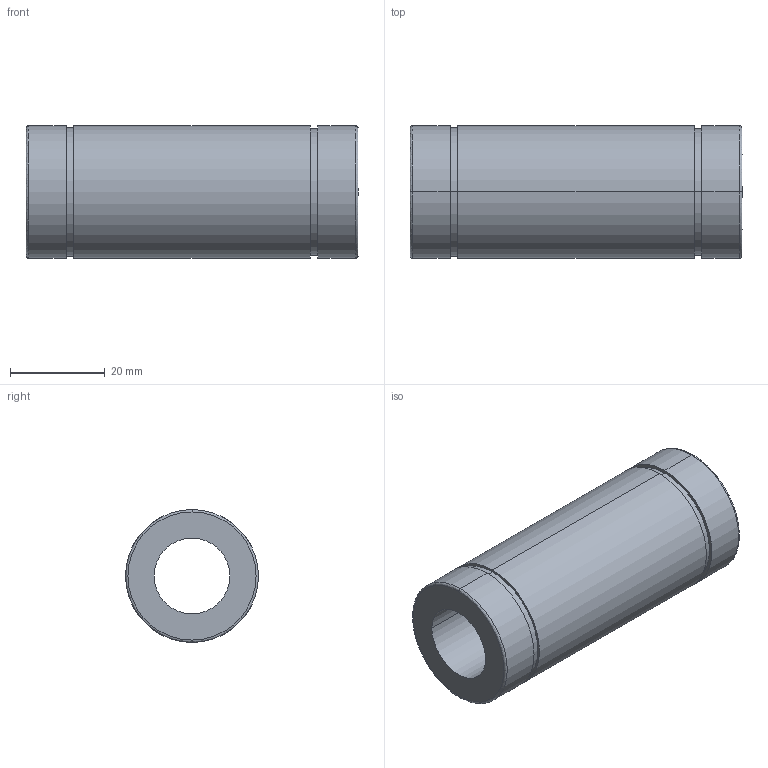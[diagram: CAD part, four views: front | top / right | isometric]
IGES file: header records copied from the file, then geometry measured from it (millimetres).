
Start section: 3D InterOp IGES (Version 21 0 1), Spatial Corp. Copyright (c) 1999-2007.
Global section: file name: NL-16V.igs; native system: Spatial Corp.; preprocessor: 3D InterOp GENERIC/IGES 3.0; author: Noname; organization: Noname; date: 20220311.145702; units: millimetre
Bounding box: 70 x 28 x 28 mm (x, y, z)
Surface area: 10661.9 mm2 (no closed solid volume)
Topology: 0 solids, 0 shells, 22 faces, 88 edges, 88 vertices
Faces by surface type: revolution 16, extrusion 6
